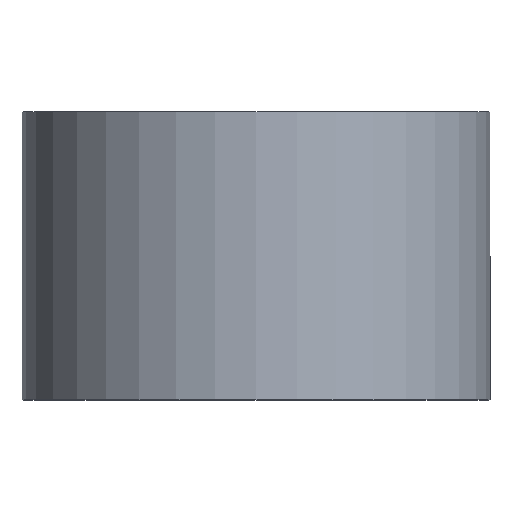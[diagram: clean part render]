
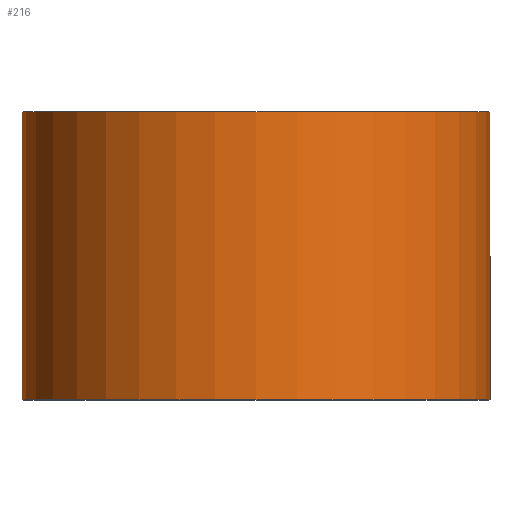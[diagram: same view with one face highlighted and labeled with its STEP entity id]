
A CAD part, top view. The second image highlights one B-rep face of the part: STEP entity #216.
In plain terms, the highlighted cylindrical face has radius 13 mm (diameter 26 mm), a partial arc.
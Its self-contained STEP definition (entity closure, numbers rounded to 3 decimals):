
#2 = CIRCLE ( 'NONE', #208, 13. ) ;
#6 = DIRECTION ( 'NONE',  ( -1., 0., 0. ) ) ;
#9 = VERTEX_POINT ( 'NONE', #251 ) ;
#19 = CARTESIAN_POINT ( 'NONE',  ( 13., 0., 0. ) ) ;
#32 = VERTEX_POINT ( 'NONE', #183 ) ;
#36 = AXIS2_PLACEMENT_3D ( 'NONE', #256, #113, #294 ) ;
#54 = VERTEX_POINT ( 'NONE', #19 ) ;
#55 = CARTESIAN_POINT ( 'NONE',  ( 0., 16., 0. ) ) ;
#66 = AXIS2_PLACEMENT_3D ( 'NONE', #98, #289, #6 ) ;
#71 = ORIENTED_EDGE ( 'NONE', *, *, #242, .F. ) ;
#76 = EDGE_LOOP ( 'NONE', ( #255, #88, #278, #71 ) ) ;
#85 = VERTEX_POINT ( 'NONE', #131 ) ;
#88 = ORIENTED_EDGE ( 'NONE', *, *, #261, .T. ) ;
#91 = EDGE_CURVE ( 'NONE', #85, #54, #220, .T. ) ;
#98 = CARTESIAN_POINT ( 'NONE',  ( 0., 0., 0. ) ) ;
#109 = CYLINDRICAL_SURFACE ( 'NONE', #66, 13. ) ;
#113 = DIRECTION ( 'NONE',  ( 0., 1., 0. ) ) ;
#131 = CARTESIAN_POINT ( 'NONE',  ( -13., 0., 0. ) ) ;
#152 = CARTESIAN_POINT ( 'NONE',  ( -13., 0., 0. ) ) ;
#178 = DIRECTION ( 'NONE',  ( -1., 0., 0. ) ) ;
#183 = CARTESIAN_POINT ( 'NONE',  ( -13., 16., 0. ) ) ;
#200 = CARTESIAN_POINT ( 'NONE',  ( 13., 0., 0. ) ) ;
#208 = AXIS2_PLACEMENT_3D ( 'NONE', #55, #250, #178 ) ;
#216 = ADVANCED_FACE ( 'NONE', ( #285 ), #109, .T. ) ;
#220 = CIRCLE ( 'NONE', #36, 13. ) ;
#226 = VECTOR ( 'NONE', #266, 1000. ) ;
#232 = LINE ( 'NONE', #152, #284 ) ;
#242 = EDGE_CURVE ( 'NONE', #85, #32, #232, .T. ) ;
#248 = EDGE_CURVE ( 'NONE', #32, #9, #2, .T. ) ;
#250 = DIRECTION ( 'NONE',  ( 0., 1., 0. ) ) ;
#251 = CARTESIAN_POINT ( 'NONE',  ( 13., 16., 0. ) ) ;
#255 = ORIENTED_EDGE ( 'NONE', *, *, #91, .T. ) ;
#256 = CARTESIAN_POINT ( 'NONE',  ( 0., 0., 0. ) ) ;
#261 = EDGE_CURVE ( 'NONE', #54, #9, #301, .T. ) ;
#266 = DIRECTION ( 'NONE',  ( 0., 1., 0. ) ) ;
#278 = ORIENTED_EDGE ( 'NONE', *, *, #248, .F. ) ;
#284 = VECTOR ( 'NONE', #288, 1000. ) ;
#285 = FACE_OUTER_BOUND ( 'NONE', #76, .T. ) ;
#288 = DIRECTION ( 'NONE',  ( 0., 1., 0. ) ) ;
#289 = DIRECTION ( 'NONE',  ( 0., 1., 0. ) ) ;
#294 = DIRECTION ( 'NONE',  ( -1., 0., 0. ) ) ;
#301 = LINE ( 'NONE', #200, #226 ) ;
